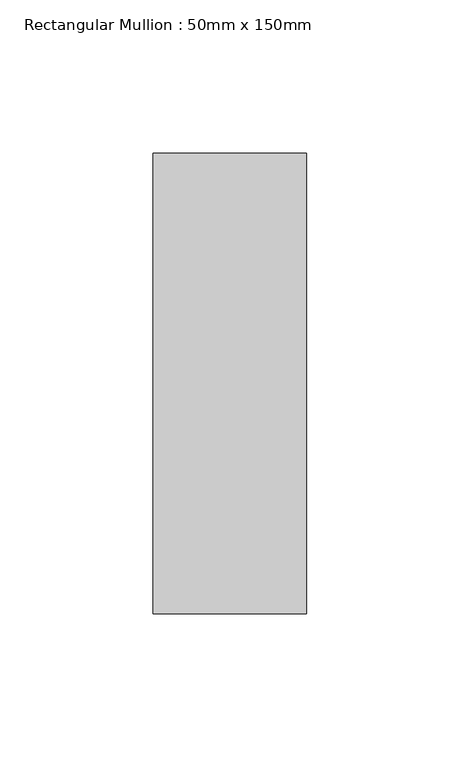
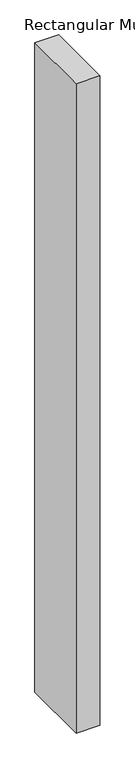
"""IFC4 building model written with IfcOpenShell, lengths in millimetres: member geometry, Rectangular Mullion : 50mm x 150mm."""

from ifc_helpers import new_model, si_unit, frame, origin, place, context, project, spatial, polyline, outline, extrude, source, transform, mapped, element, save


def rectangular_mullion_50mm_x_150mm_e13fe9f0(model_context):
    return source(origin(), model_context, "Body", "SweptSolid", [
        extrude(outline(polyline([(25.0, 75.0), (25.0, -75.0), (-25.0, -75.0), (-25.0, 75.0), (25.0, 75.0)])), frame((0.0, 0.0, -1442.4732202), z_axis=(0.0, 0.0, 1.0), x_axis=(1.0, 0.0, 0.0)), (0.0, 0.0, 1.0), 1442.4732202),
    ])


if __name__ == "__main__":
    model = new_model("IFC4")
    model_context = context("Model", 3, world=origin())
    ifc_project = project(units=[si_unit("LENGTHUNIT", "METRE", prefix="MILLI")], contexts=[model_context])
    site = spatial("IfcSite", under=ifc_project)
    building = spatial("IfcBuilding", under=site)
    placement = place(None, origin())
    rectangular_mullion_50mm_x_150mm_shape = rectangular_mullion_50mm_x_150mm_e13fe9f0(model_context)
    element("IfcMember", 1, ObjectType="Rectangular Mullion : 50mm x 150mm", at=placement, inside=building, context=model_context, shape_type="MappedRepresentation", body=[
        mapped(rectangular_mullion_50mm_x_150mm_shape, transform((0.0, 0.0, 0.0), x_axis=(1.0, 0.0, 0.0), y_axis=(0.0, 1.0, 0.0), z_axis=(0.0, 0.0, 1.0))),
    ])
    save(model, "model.ifc")
